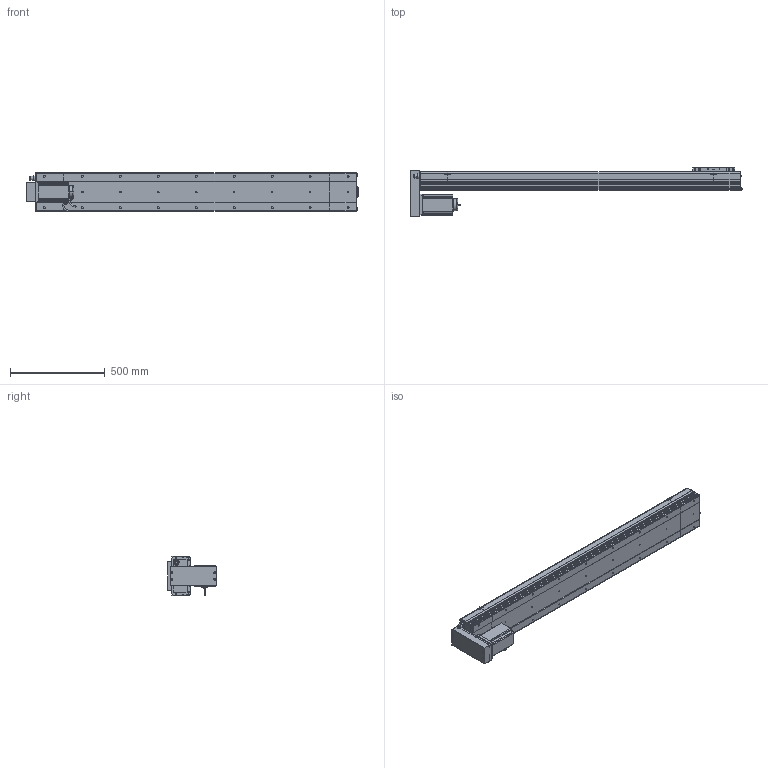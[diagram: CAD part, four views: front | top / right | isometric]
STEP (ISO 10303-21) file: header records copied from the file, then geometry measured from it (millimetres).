
FILE_DESCRIPTION (( 'STEP AP214' ), '1' );
FILE_NAME ('D20 CSH BM S1400.STEP', '2010-06-30T08:25:24', ( 'Conseil Régional Haute-Normandie' ), ( 'Conseil Régional Haute-Normandie' ), 'SwSTEP 2.0', 'SolidWorks 2010', '' );
FILE_SCHEMA (( 'AUTOMOTIVE_DESIGN' ));
Length unit declared in the file: millimetre
Products named in the file (31): Corp S1400_Default; Couvercle S1400_Default; Chariot D20_Default; Support Chariot D20_Default; Head BM D20_Default; Plaque De Serrage Head BM D20_Default; Couvercle Head BM_Default; Corp Head BM D20_Default; vis M5 L15_Default; vis M5 L47_Default; Cache Moteur BM D20_Default; vis M5 L30_Default; Conecteur2_Default; codeur 110BLDC170A-630x; corps 110BLDC170A-630x; ecrou_Default; clavette; Conecteur_Default; avant 110BLDC170A-630x; Moteur motionking 110BLDC170A-640x; Support moteur BM D20_Default; Plaque de Bout Head BM D20_Default; D20 CSH BM S1400; Glissiere_Default; Tail D20_Default; Corp Tail D20_Default; Couvercle_Default; Corp D20 S1400_Default; Plaque De Serrage D20_Default; Plaque de Bout Tail D20_Default
Assembly tree (58 placements, depth 4):
  D20 CSH BM S1400
    Tail D20_Default
      Plaque De Serrage D20_Default
      vis M5 L15_Default  x6
      Corp Tail D20_Default
      Plaque de Bout Tail D20_Default
      Couvercle_Default
    Corp D20 S1400_Default
      Corp S1400_Default
      Couvercle S1400_Default
    Head BM D20_Default
      Corp Head BM D20_Default
      vis M5 L15_Default  x6
      Plaque De Serrage Head BM D20_Default
      vis M5 L47_Default  x4
      Couvercle Head BM_Default
      Plaque de Bout Head BM D20_Default
      vis M5 L30_Default  x4
      Moteur motionking 110BLDC170A-640x
        codeur 110BLDC170A-630x
        avant 110BLDC170A-630x
        Conecteur2_Default
        Conecteur_Default
        clavette
        corps 110BLDC170A-630x
      ecrou_Default  x4
      Support moteur BM D20_Default
      Cache Moteur BM D20_Default
    Chariot D20_Default
      vis M5 L15_Default  x8
      Support Chariot D20_Default
      Glissiere_Default
      Chariot D20_Default
Bounding box: 1747.7 x 257.5 x 206 mm (x, y, z)
Volume: 13667260.5 mm3; surface area: 2568716 mm2
Topology: 95 solids, 95 shells, 3535 faces, 8887 edges, 5793 vertices
Faces by surface type: plane 1980, bspline 806, cylinder 611, torus 79, cone 59
Entity records: 157225 total; most frequent: CARTESIAN_POINT 81925, ORIENTED_EDGE 14922, DIRECTION 11195, EDGE_CURVE 7461, VERTEX_POINT 4941, VECTOR 4877, LINE 4877, EDGE_LOOP 3192
